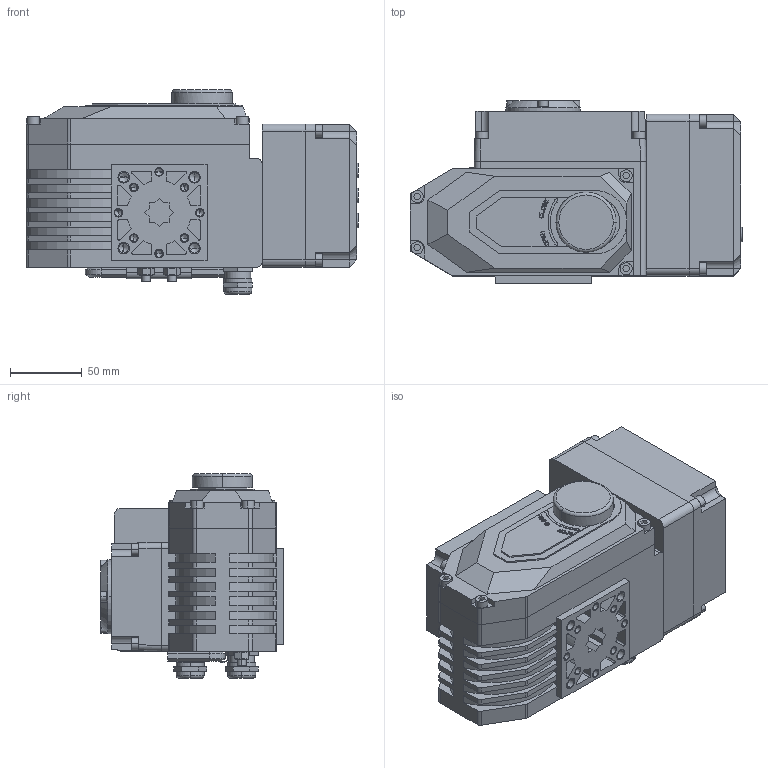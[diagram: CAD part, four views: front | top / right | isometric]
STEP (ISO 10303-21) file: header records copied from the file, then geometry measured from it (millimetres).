
FILE_DESCRIPTION((''),'2;1');
FILE_NAME('ELECTROPRIVOD_WITH_DISPLAY_ASM','2024-09-01T',('AMD'),(''),'PRO/ENGINEER BY PARAMETRIC TECHNOLOGY CORPORATION, 2008020','PRO/ENGINEER BY PARAMETRIC TECHNOLOGY CORPORATION, 2008020','');
FILE_SCHEMA(('CONFIG_CONTROL_DESIGN'));
Length unit declared in the file: millimetre
Products named in the file (13): DET_1; V-11738-M5; V-11738-M4; DET_2; KREPLENIE; KLUCH; DET_3; G-5915-M6; ELECTROPRIVOD_ASM; DET_4; DET_5; DISPLAY_ASM; ELECTROPRIVOD_WITH_DISPLAY_ASM
Assembly tree (27 placements, depth 3):
  ELECTROPRIVOD_WITH_DISPLAY_ASM
    ELECTROPRIVOD_ASM
      DET_1
      V-11738-M5  x8
      V-11738-M4  x4
      DET_2
      KREPLENIE
      KLUCH
      DET_3
      G-5915-M6  x2
    DISPLAY_ASM
      DET_4
      DET_5
      V-11738-M5  x4
Bounding box: 232 x 127.5 x 143 mm (x, y, z)
Volume: 2372912.5 mm3; surface area: 244590.5 mm2
Topology: 25 solids, 55 shells, 2130 faces, 5699 edges, 3772 vertices
Faces by surface type: plane 1476, extrusion 300, cylinder 298, cone 50, torus 6
Entity records: 59990 total; most frequent: CARTESIAN_POINT 12931, ORIENTED_EDGE 10130, DIRECTION 8546, EDGE_CURVE 5097, VECTOR 4266, LINE 3966, VERTEX_POINT 3379, AXIS2_PLACEMENT_3D 2140
